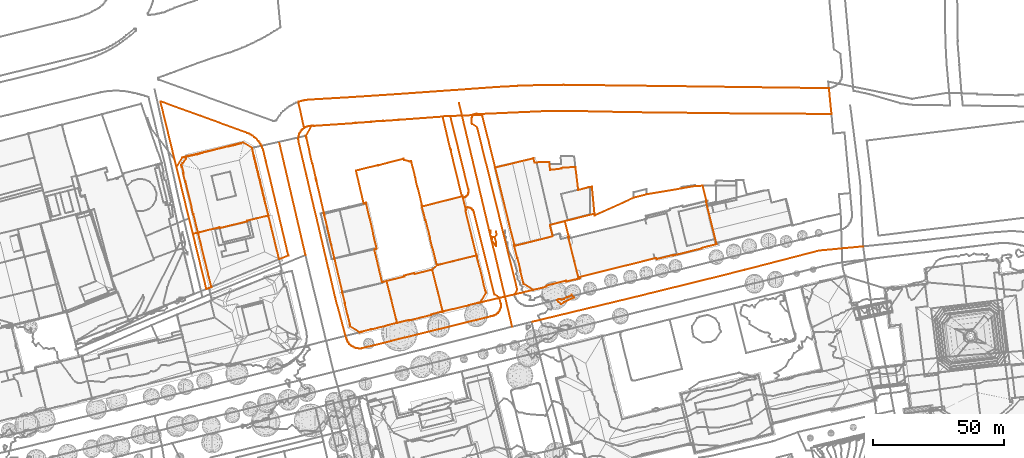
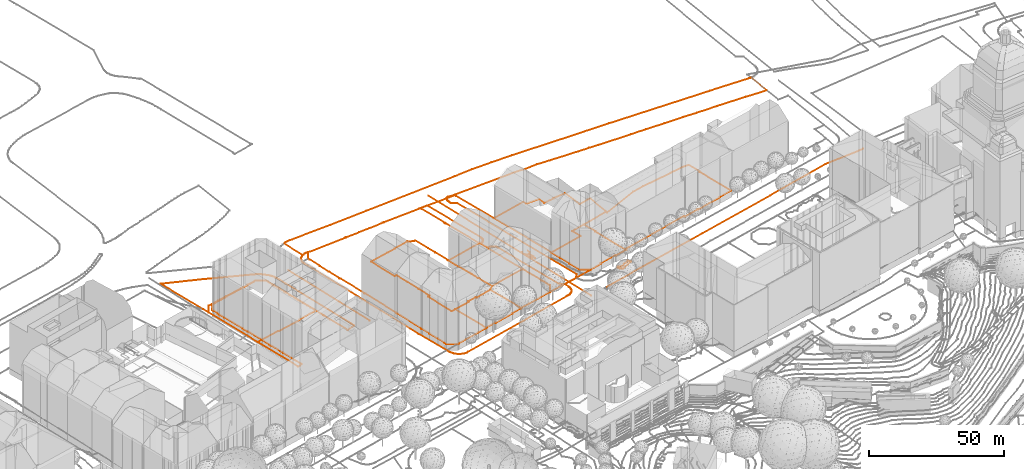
# Not in any storey, part 204 of 477: 11 geographic elements, 7 civil elements.
"""IFC4 model written with IfcOpenShell, lengths in metres."""

from ifc_helpers import new_model, entity, si_unit, frame, origin_with_axes, place, context, subcontext, project, spatial, element, save


model = new_model("IFC4")

# Units and contexts
model_context = context("Model", 3, precision=1e-05, world=origin_with_axes())
body_context = subcontext(model_context, "Body", "Model", "MODEL_VIEW")
ifc_project = project(units=[si_unit("AREAUNIT", "SQUARE_METRE"), si_unit("LENGTHUNIT", "METRE")], contexts=[model_context])

# Sites
site_1_placement = place(None, origin_with_axes())
site_1 = spatial("IfcSite", under=ifc_project, at=site_1_placement, Name="Topoexport Site")
site_2_placement = place(site_1_placement, origin_with_axes())
site_2 = spatial("IfcSite", under=site_1, at=site_2_placement, Name="TPX_ROADS")

# Civil elements
civil_element_1_placement = place(site_2_placement, frame((336.4817320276, 476.9157286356, 542.04), z_axis=(0.0, 0.0, 1.0), x_axis=(1.0, 0.0, 0.0)))
element("IfcCivilElement", 1, at=civil_element_1_placement, inside=site_2, Name="Road 6", ObjectType="ROAD", context=body_context, shape_type="GeometricCurveSet", body=[
    entity("IfcGeometricCurveSet", [entity("IfcIndexedPolyCurve", entity("IfcCartesianPointList3D", [[0.0, 0.0, 0.0], [20.3959999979, -85.9449973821, -0.392]]))]),
])
civil_element_2_placement = place(site_2_placement, frame((267.7387320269, 461.526729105, 541.693), z_axis=(0.0, 0.0, 1.0), x_axis=(1.0, 0.0, 0.0)))
element("IfcCivilElement", 2, at=civil_element_2_placement, inside=site_2, Name="Road 45", ObjectType="ROAD", context=body_context, shape_type="GeometricCurveSet", body=[
    entity("IfcGeometricCurveSet", [entity("IfcIndexedPolyCurve", entity("IfcCartesianPointList3D", [[0.0, 0.0, 0.0], [10.0669999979, -43.1429986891, -0.29]]))]),
])
civil_element_3_placement = place(site_2_placement, frame((364.3557320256, 392.7987311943, 541.738), z_axis=(0.0, 0.0, 1.0), x_axis=(1.0, 0.0, 0.0)))
element("IfcCivilElement", 3, at=civil_element_3_placement, inside=site_2, Name="Road 168", ObjectType="ROAD", context=body_context, shape_type="GeometricCurveSet", body=[
    entity("IfcGeometricCurveSet", [entity("IfcIndexedPolyCurve", entity("IfcCartesianPointList3D", [[0.0, 0.0, 0.0], [48.0580000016, 11.6349996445, 0.573], [81.7109999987, 19.9759993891, 0.748], [109.8969999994, 27.3109991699, 0.752], [126.8670000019, 28.8919991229, 0.703]]))]),
])

# Site
site_3_placement = place(site_1_placement, origin_with_axes())
site_3 = spatial("IfcSite", under=site_1, at=site_3_placement, Name="TPX_ROADS_OUTLINES")

# Civil elements
civil_element_4_placement = place(site_3_placement, frame((222.2827320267, 477.1937160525, 541.8190164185), z_axis=(0.0, 0.0, 1.0), x_axis=(1.0, 0.0, 0.0)))
element("IfcCivilElement", 4, at=civil_element_4_placement, inside=site_3, Name="Roads Outline 15", ObjectType="ROAD", context=body_context, shape_type="GeometricCurveSet", body=[
    entity("IfcGeometricCurveSet", [entity("IfcIndexedPolyCurve", entity("IfcCartesianPointList3D", [[0.0, 0.0, 0.0], [15.1660000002, -5.504, 0.1213694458], [33.1520000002, -12.051, -0.0485975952], [33.8740000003, -12.361, -0.0483331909], [34.571, -12.7239999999, -0.0481192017], [35.2390000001, -13.139, -0.0478943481], [35.8730000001, -13.6030000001, -0.0476621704], [36.4700000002, -14.1140000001, -0.0474786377], [37.0270000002, -14.6680000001, -0.0473005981], [37.5410000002, -15.263, -0.0471123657], [37.952, -15.8130000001, -0.046961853], [38.3250000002, -16.389, -0.0468252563], [38.659, -16.9890000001, -0.0467029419], [38.9930000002, -17.7, -0.048979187], [39.2710000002, -18.4350000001, -0.0556814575], [39.4930000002, -19.1880000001, -0.0610336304], [40.3840000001, -22.9620000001, -0.0843352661], [48.557, -57.24, -0.2920198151], [48.9580000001, -58.923, -0.332273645], [45.3939999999, -60.3840000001, -0.2306987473], [43.1609999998, -51.1940000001, -0.1948359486], [42.4029999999, -48.0719999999, -0.1406201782], [42.2390000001, -47.3959999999, -0.1360457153], [41.477, -44.2579999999, -0.1147911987], [41.335, -43.673, -0.1108303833], [41.2590000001, -43.3589999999, -0.1087105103], [41.0460000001, -42.4820000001, -0.1027692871], [40.6920000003, -41.027, -0.0929075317], [40.307, -39.4410000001, -0.0821921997], [40.2050000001, -39.4620000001, -0.0793533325], [39.6720000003, -37.254, -0.0653491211], [39.7689999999, -37.2280000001, -0.0676876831], [39.5610000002, -36.3700000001, -0.0626730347], [39.4649999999, -36.3959999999, -0.0603585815], [38.9199999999, -34.165, -0.0472192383], [39.017, -34.129, -0.0495578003], [38.8110000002, -33.281, -0.0466472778], [38.713, -33.298, -0.0466831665], [38.1750000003, -31.0600000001, -0.046880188], [38.2660000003, -31.037, -0.0468468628], [38.054, -30.1670000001, -0.0469244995], [37.966, -30.189, -0.0469567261], [37.4169999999, -27.9850000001, -0.0471577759], [37.517, -27.9580000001, -0.0471211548], [37.3089999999, -27.102, -0.0471973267], [37.2140000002, -27.125, -0.0472321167], [36.6839999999, -24.9040000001, -0.0474133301], [36.77, -24.8810000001, -0.047387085], [36.5410000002, -23.9369999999, -0.0474569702], [36.4479999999, -23.959, -0.0474853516], [35.9270000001, -21.8219999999, -0.0476443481], [36.02, -21.794, -0.0476159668], [35.8119999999, -20.9369999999, -0.0476845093], [35.7310000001, -20.9669999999, -0.0477141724], [35.1950000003, -18.7339999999, -0.0479104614], [35.2710000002, -18.7139999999, -0.0478826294], [35.0490000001, -17.797, -0.0479639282], [31.6699999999, -15.7320000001, -0.0490792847], [30.8289999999, -15.939, -0.0493832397], [30.8680000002, -16.1030000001, -0.0493713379], [28.6669999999, -16.6440000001, -0.0501040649], [28.625, -16.4820000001, -0.0501168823], [27.7790000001, -16.6910000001, -0.0503821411], [27.8149999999, -16.845, -0.0503689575], [25.574, -17.398, -0.0511286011], [25.5460000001, -17.2409999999, -0.051138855], [24.5530000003, -17.486, -0.051085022], [24.5630000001, -17.558, -0.0510935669], [17.1010000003, -19.4110000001, 0.0932592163], [17.077, -19.3219999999, 0.0937660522], [16.1540000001, -19.548, 0.1133033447], [16.2009999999, -19.7309999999, 0.1123079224], [13.9670000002, -20.273, 0.079338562], [13.9180000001, -20.0889999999, 0.0770686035], [13.0690000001, -20.294, 0.0376876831], [13.1200000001, -20.4809999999, 0.0400534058], [10.8540000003, -21.024, -0.034378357], [10.8119999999, -20.838, -0.0315328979], [9.9990000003, -21.0349999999, 0.0235470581], [9.5870000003, -21.7309999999, 0.0404435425], [9.7620000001, -21.8430000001, 0.0348466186], [8.571, -23.8160000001, 0.1002277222], [8.409, -23.706, 0.119053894], [7.9750000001, -24.4140000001, 0.1694894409], [8.1680000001, -25.173, 0.14706073], [8.3650000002, -25.122, 0.1241671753], [8.9300000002, -27.3970000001, 0.0614559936], [8.719, -27.4539999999, 0.0830285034], [8.9070000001, -28.176, 0.0621915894], [8.8670000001, -28.193, 0.0658292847], [9.4960000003, -30.727, 0.0433539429], [9.5970000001, -30.703, 0.0401237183], [11.98, -40.4469999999, -0.0067401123], [11.8900000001, -40.48, -0.0102526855], [12.5380000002, -43.1200000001, 0.0154313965], [12.6439999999, -43.095, 0.0196431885], [14.284, -49.899, 0.0817719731], [14.352, -50.2069999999, 0.0740258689], [14.4250000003, -50.5079999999, 0.0658913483], [14.4730000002, -50.497, 0.0676374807], [14.5419999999, -50.8019999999, 0.0550304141], [15.3229999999, -54.057, -0.0868005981], [15.4960000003, -54.801, -0.0912026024], [15.5320000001, -54.7949999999, -0.0912365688], [16.7650000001, -59.872, -0.0525231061], [16.7280000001, -59.888, -0.0525075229], [17.085, -61.328, -0.0623711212], [17.125, -61.3200000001, -0.06149336], [18.2490000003, -65.9380000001, -0.1528750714], [18.1970000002, -65.9669999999, -0.1550058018], [18.5589999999, -67.426, -0.1629855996], [18.608, -67.4299999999, -0.1627975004], [19.4879999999, -71.0, -0.1167751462], [18.5600000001, -71.3800000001, -0.1367043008], [17.6069999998, -71.7720000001, -0.1267196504], [12.432, -50.6740000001, -0.0303872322], [10.9810000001, -44.763, -0.0348307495], [6.148, -25.061, 0.0580539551], [5.4550000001, -22.236, 0.0463912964], [0.0, 0.0, 0.0]]))]),
])
civil_element_5_placement = place(site_3_placement, frame((297.1247320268, 450.7117160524, 541.6788269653), z_axis=(0.0, 0.0, 1.0), x_axis=(1.0, 0.0, 0.0)))
element("IfcCivilElement", 5, at=civil_element_5_placement, inside=site_3, Name="Roads Outline 59", ObjectType="ROAD", context=body_context, shape_type="GeometricCurveSet", body=[
    entity("IfcGeometricCurveSet", [entity("IfcIndexedPolyCurve", entity("IfcCartesianPointList3D", [[0.0, 0.0, 0.0], [1.6499999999, 0.409, -0.0016755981], [8.3700000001, 2.0730000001, -0.0223190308], [8.3959999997, 2.0, -0.0214017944], [11.9159999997, 2.8670000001, 0.059857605], [11.8909999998, 2.95, 0.0589176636], [18.196, 4.531, 0.1168852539], [18.3100000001, 4.0919999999, 0.1144012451], [20.5409999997, 3.53, 0.0503810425], [21.1319999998, 3.6770000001, 0.0335469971], [22.7859999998, -3.081, -0.010114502], [22.7199999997, -3.095, -0.0078787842], [23.585, -6.598, -0.0276338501], [23.6529999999, -6.584, -0.0287171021], [25.307, -13.348, -0.0642616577], [25.1519999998, -13.3899999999, -0.056664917], [25.2399999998, -13.7489999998, -0.0609779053], [26.5120000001, -18.953, -0.0857238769], [26.6719999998, -18.9269999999, -0.0804602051], [28.3339999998, -25.6739999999, 0.0201699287], [28.2569999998, -25.6949999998, 0.018988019], [29.1269999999, -29.1969999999, 0.0194713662], [29.1979999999, -29.186, 0.0207217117], [30.9329999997, -36.216, 0.049744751], [29.2029999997, -37.862, 0.0022249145], [22.3929999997, -39.591, -0.048434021], [22.2849999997, -39.192, -0.0505173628], [18.449, -40.1529999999, -0.0261394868], [18.5469999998, -40.5559999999, -0.024960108], [11.7319999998, -42.257, -0.0345388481], [9.9469999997, -42.703, -0.0551670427], [7.0179999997, -30.149, -0.040090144], [7.9099999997, -29.926, -0.074634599], [6.5209999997, -24.04, -0.018808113], [6.605, -24.0159999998, -0.0198595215], [5.2620000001, -18.2109999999, 0.0002366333], [5.1799999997, -18.236, 2.64282e-05], [3.821, -12.338, -0.0033411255], [2.9559999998, -12.5449999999, -0.0030061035], [0.0, 0.0, 0.0]]))]),
])
civil_element_6_placement = place(site_3_placement, frame((275.0467320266, 462.7807160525, 541.6980488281), z_axis=(0.0, 0.0, 1.0), x_axis=(1.0, 0.0, 0.0)))
element("IfcCivilElement", 6, at=civil_element_6_placement, inside=site_3, Name="Roads Outline 60", ObjectType="ROAD", context=body_context, shape_type="GeometricCurveSet", body=[
    entity("IfcGeometricCurveSet", [entity("IfcIndexedPolyCurve", entity("IfcCartesianPointList3D", [[0.0300000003, 0.5899999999, 0.0009667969], [0.1359999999, 1.2039999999, 0.0044673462], [0.318, 1.7999999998, 0.0134096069], [0.5720000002, 2.368, 0.0258894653], [0.8940000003, 2.9009999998, 0.0417103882], [1.281, 3.389, 0.0475413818], [1.7250000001, 3.8259999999, 0.0303331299], [2.2200000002, 4.2039999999, 0.0151245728], [2.7450000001, 4.513, 0.0182327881], [3.304, 4.7549999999, 0.0124403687], [3.8880000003, 4.9269999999, -0.0148276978], [4.4890000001, 5.0279999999, -0.071666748], [5.0970000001, 5.054, -0.1489284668], [2.8590000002, 1.2239999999, 0.0189077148], [3.0219999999, 0.547, 0.0198727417], [3.1030000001, 0.5649999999, 0.0203522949], [4.3910000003, -4.9470000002, -0.0592133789], [4.3089999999, -4.9770000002, -0.0487932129], [5.3930000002, -9.659, -0.1534569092], [5.4780000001, -9.645, -0.153524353], [6.7520000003, -15.135, -0.123000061], [6.6690000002, -15.162, -0.1271490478], [6.75, -15.517, -0.1231000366], [6.8310000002, -15.872, -0.1190510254], [6.9210000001, -15.844, -0.114552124], [9.8130000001, -28.331, -0.0100507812], [9.7400000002, -28.3430000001, -0.0095161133], [9.804, -28.689, -0.0099848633], [9.9010000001, -29.034, -0.0106953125], [9.9700000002, -29.027, -0.0112006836], [13.75, -45.318, -0.0928490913], [13.6800000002, -45.3420000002, -0.0932465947], [13.7409999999, -45.666, -0.0959733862], [13.8340000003, -46.0190000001, -0.0993786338], [13.9040000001, -46.0050000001, -0.0994325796], [16.8259999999, -58.4140000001, -0.2406979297], [16.7400000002, -58.466, -0.2413464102], [16.8259999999, -58.834, -0.247791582], [16.9130000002, -59.203, -0.2524293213], [16.9850000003, -59.1810000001, -0.2515760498], [17.855, -62.8020000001, -0.2738510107], [17.7620000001, -62.8360000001, -0.2750132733], [18.8360000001, -67.361, -0.2796952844], [18.9180000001, -67.3420000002, -0.2779980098], [19.7609999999, -71.0210000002, -0.3249816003], [19.679, -71.0490000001, -0.3270047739], [19.8370000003, -71.743, -0.3289797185], [23.4850000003, -73.9810000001, -0.2930095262], [24.1630000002, -73.817, -0.2965359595], [24.1520000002, -73.7290000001, -0.2928899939], [27.787, -72.817, -0.2841535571], [27.8190000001, -72.8910000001, -0.2865415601], [33.7880000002, -71.4000000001, -0.230156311], [33.7680000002, -71.321, -0.2318454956], [37.409, -70.4210000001, -0.1618181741], [37.4470000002, -70.5, -0.1583328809], [37.8110000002, -70.4110000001, -0.1326917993], [38.1750000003, -70.3220000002, -0.1024150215], [38.1520000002, -70.236, -0.0997557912], [42.324, -69.203, -0.0881807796], [42.378, -69.4310000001, -0.0971087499], [50.8030000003, -67.345, 0.0337734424], [50.7430000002, -67.1130000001, 0.0406000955], [54.895, -66.0720000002, 0.0804437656], [54.929, -66.1610000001, 0.0776237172], [55.2940000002, -66.071, 0.0829830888], [55.6580000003, -65.9820000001, 0.0827874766], [55.6350000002, -65.8900000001, 0.0821821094], [59.2590000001, -65.0010000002, 0.0659820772], [59.29, -65.0820000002, 0.0663261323], [65.281, -63.595, 0.145563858], [65.27, -63.5150000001, 0.1422196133], [68.8990000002, -62.6100000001, 0.2364492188], [68.9310000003, -62.7000000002, 0.234894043], [69.6170000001, -62.527, 0.2437378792], [71.8340000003, -58.8470000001, 0.243986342], [71.659, -58.1460000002, 0.2331991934], [71.5750000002, -58.1840000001, 0.2321311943], [70.6710000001, -54.534, 0.2416911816], [70.7370000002, -54.5180000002, 0.2410928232], [69.2680000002, -48.534, 0.2344405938], [69.1780000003, -48.5480000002, 0.2334919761], [68.2680000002, -44.915, 0.2603381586], [68.3429999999, -44.8860000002, 0.2610097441], [68.2579999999, -44.5120000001, 0.2662855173], [68.1720000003, -44.138, 0.2717700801], [68.0840000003, -44.1580000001, 0.2704731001], [63.9190000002, -27.2220000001, 0.2387770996], [64.1520000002, -27.1640000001, 0.2442525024], [63.929, -26.2590000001, 0.2390133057], [63.9750000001, -26.2450000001, 0.2400998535], [64.3470000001, -26.1610000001, 0.2485966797], [64.727, -26.1330000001, 0.2570622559], [65.1070000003, -26.1610000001, 0.265527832], [65.4790000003, -26.2450000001, 0.272583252], [65.835, -26.382, 0.2792539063], [66.227, -26.621, 0.2837104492], [66.5720000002, -26.9230000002, 0.2797938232], [66.8620000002, -27.2790000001, 0.2765015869], [67.088, -27.6780000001, 0.2739359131], [67.2430000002, -28.1100000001, 0.2676782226], [75.0360000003, -59.48, 0.1908198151], [76.9100000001, -60.612, 0.1337780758], [76.9569999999, -60.7950000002, 0.1268442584], [77.4410000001, -62.6900000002, 0.0761712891], [77.5260000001, -63.2010000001, 0.0825572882], [77.548, -63.719, 0.0967074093], [77.5060000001, -64.236, 0.1075981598], [77.3999999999, -64.743, 0.103211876], [77.233, -65.2340000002, 0.0967943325], [77.0070000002, -65.7000000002, 0.0902831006], [76.7250000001, -66.135, 0.0856594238], [76.3990000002, -66.524, 0.1023774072], [76.0279999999, -66.871, 0.1103007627], [75.6170000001, -67.1700000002, 0.0943287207], [75.1740000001, -67.4180000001, 0.0755755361], [74.7039999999, -67.6100000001, 0.0772408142], [74.2140000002, -67.7450000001, 0.0765519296], [73.7120000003, -67.8190000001, 0.0677834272], [24.548, -79.983, -0.4654792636], [23.9310000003, -80.0930000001, -0.4729349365], [23.3050000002, -80.128, -0.4662569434], [22.679, -80.0860000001, -0.4889861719], [22.0640000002, -79.9670000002, -0.5106293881], [21.4670000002, -79.7750000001, -0.4969277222], [20.898, -79.5110000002, -0.4904165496], [20.3659999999, -79.1800000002, -0.4878103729], [19.915, -78.821, -0.4824731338], [19.5070000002, -78.4130000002, -0.4973264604], [19.1469999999, -77.9610000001, -0.5141732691], [18.841, -77.4720000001, -0.4788578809], [18.591, -76.952, -0.4694580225], [18.4020000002, -76.4070000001, -0.4673487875], [18.1120000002, -75.3370000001, -0.4588355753], [14.2260000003, -61.0010000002, -0.2770075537], [10.807, -46.452, -0.1292259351], [7.0100000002, -30.335, -0.1101032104], [3.1570000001, -13.942, 0.0193040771], [0.148, -1.1700000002, 0.0050569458], [0.0390000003, -0.5890000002, 0.0012568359], [0.0, 0.0, 0.0], [0.0300000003, 0.5899999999, 0.0009667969]]))]),
])
civil_element_7_placement = place(site_3_placement, frame((275.0697320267, 477.0437160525, 541.6987900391), z_axis=(0.0, 0.0, 1.0), x_axis=(1.0, 0.0, 0.0)))
element("IfcCivilElement", 7, at=civil_element_7_placement, inside=site_3, Name="Roads Outline 98", ObjectType="ROAD", context=body_context, shape_type="GeometricCurveSet", body=[
    entity("IfcGeometricCurveSet", [entity("IfcIndexedPolyCurve", entity("IfcCartesianPointList3D", [[0.0, 0.0, 0.0], [0.9550000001, 0.2999999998, 0.0450963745], [1.929, 0.534, 0.0207940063], [2.9160000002, 0.7009999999, 0.0186401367], [3.912, 0.801, -0.0177634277], [20.8390000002, 1.7969999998, -0.0187177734], [37.0350000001, 2.865, 0.1146030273], [76.2800000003, 5.6599999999, 0.2426313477], [84.1529999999, 6.098, 0.4367965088], [92.6230000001, 6.3779999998, 0.4419957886], [101.443, 6.4759999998, 0.5096697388], [142.7919999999, 5.9759999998, 0.7670620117], [185.5440000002, 5.4099999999, 0.9065622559], [202.1740000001, 5.193, 0.8507559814], [202.5989999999, 5.1849999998, 0.8392645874], [203.0240000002, 5.2089999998, 0.8277731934], [204.0160000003, -4.78, 0.7992883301], [195.247, -4.6860000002, 0.8912233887], [195.2519999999, -4.6330000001, 0.8912294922], [182.966, -4.5110000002, 0.9174223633], [182.9560000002, -4.5550000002, 0.9174052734], [174.3390000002, -4.456, 0.889439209], [174.3259999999, -4.5440000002, 0.8896708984], [168.2680000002, -4.4710000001, 0.9985366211], [160.4900000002, -4.3790000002, 0.8777983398], [152.6710000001, -4.2890000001, 0.8739831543], [146.1809999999, -4.2100000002, 0.779840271], [132.8829999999, -4.0710000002, 0.7219985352], [128.463, -4.0010000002, 0.7368657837], [123.7630000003, -3.9310000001, 0.7331105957], [111.6899999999, -3.6850000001, 0.7322818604], [106.4109999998, -3.5620000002, 0.7436603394], [101.1630000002, -3.6130000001, 0.5055169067], [96.6600000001, -3.4920000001, 0.4575756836], [70.7039999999, -4.6530000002, 0.2269865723], [70.2489999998, -4.6730000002, 0.2097963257], [68.1090000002, -4.6150000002, 0.2211621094], [67.75, -4.6240000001, 0.2396347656], [67.4020000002, -4.7110000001, 0.2575615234], [67.0810000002, -4.8720000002, 0.2730130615], [66.9100000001, -4.9980000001, 0.2749543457], [66.7570000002, -5.145, 0.2766912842], [66.5989999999, -5.3490000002, 0.2784849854], [66.4739999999, -5.574, 0.2799040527], [66.3850000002, -5.8160000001, 0.2809144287], [66.29, -6.2720000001, 0.2819929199], [66.2420000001, -6.736, 0.2825378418], [66.247, -7.1900000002, 0.2824810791], [66.2820000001, -7.6420000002, 0.2820837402], [66.3450000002, -8.0800000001, 0.2813685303], [66.4369999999, -8.513, 0.2803240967], [68.4610000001, -9.8220000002, 0.2103339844], [83.7820000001, -71.8470000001, 0.2620856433], [82.662, -73.7070000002, 0.1999726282], [76.9339999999, -75.0580000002, 0.1261030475], [76.8870000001, -74.875, 0.1330368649], [75.0130000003, -73.743, 0.1900786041], [67.2200000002, -42.3730000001, 0.2669370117], [67.0649999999, -41.9410000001, 0.2731947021], [66.8390000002, -41.5420000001, 0.275760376], [66.5490000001, -41.1860000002, 0.2790526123], [66.2039999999, -40.8840000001, 0.2829692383], [65.8119999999, -40.645, 0.2785126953], [65.4560000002, -40.5080000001, 0.271842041], [65.0840000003, -40.4240000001, 0.2647866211], [64.7039999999, -40.3960000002, 0.2563210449], [64.324, -40.4240000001, 0.2478554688], [63.952, -40.5080000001, 0.2393586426], [63.906, -40.5220000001, 0.2382720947], [62.966, -36.7170000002, 0.2160687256], [63.0249999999, -36.7080000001, 0.2174623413], [63.4070000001, -36.6170000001, 0.2264854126], [63.77, -36.4680000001, 0.2350596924], [64.1060000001, -36.2640000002, 0.2429962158], [64.4050000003, -36.01, 0.2496599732], [64.662, -35.7130000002, 0.255385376], [64.8650000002, -35.3890000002, 0.2599077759], [65.017, -35.0380000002, 0.2632940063], [65.1140000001, -34.6690000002, 0.2654337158], [65.1540000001, -34.2890000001, 0.2661832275], [65.1359999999, -33.9070000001, 0.2658459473], [65.0610000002, -33.5320000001, 0.264274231], [58.1550000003, -5.4750000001, 0.1135582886], [55.2889999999, -5.5850000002, 0.0708122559], [54.611, -5.6420000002, 0.0607150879], [54.6189999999, -5.7320000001, 0.0608342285], [39.0249999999, -6.888, 0.1503070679], [39.0049999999, -6.8050000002, 0.1496100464], [38.6609999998, -6.8290000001, 0.1376212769], [38.3160000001, -6.8540000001, 0.1255976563], [38.3220000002, -6.9370000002, 0.1258067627], [32.463, -7.3570000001, -0.0012525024], [32.4399999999, -7.273, -0.0015627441], [27.8530000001, -7.611, -0.018352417], [27.8590000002, -7.6950000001, -0.0183370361], [21.9920000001, -8.1140000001, -0.0198977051], [21.9700000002, -8.05, -0.0198748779], [21.591, -8.0790000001, -0.0194816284], [21.2120000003, -8.108, -0.0190883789], [21.2200000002, -8.2070000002, -0.0190966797], [5.8790000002, -9.2550000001, -0.1546019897], [5.872, -9.155, -0.1545964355], [5.074, -9.209, -0.1496696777], [4.466, -9.2350000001, -0.072407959], [3.8650000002, -9.3360000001, -0.0155689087], [3.281, -9.5080000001, 0.0116991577], [2.7220000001, -9.75, 0.0174915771], [2.1970000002, -10.0590000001, 0.0143833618], [0.014, -0.0590000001, 0.0004511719], [0.0, 0.0, 0.0]]))]),
])

# Site
site_4_placement = place(site_1_placement, origin_with_axes())
site_4 = spatial("IfcSite", under=site_1, at=site_4_placement, Name="TPX_CADASTRES")

# Geographic elements
geographic_element_1_placement = place(site_4_placement, frame((228.4307320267, 452.1327160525, 541.8770703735), z_axis=(0.0, 0.0, 1.0), x_axis=(1.0, 0.0, 0.0)))
element("IfcGeographicElement", 8, at=geographic_element_1_placement, inside=site_4, Name="Cadastre 4", PredefinedType="NOTDEFINED", context=body_context, shape_type="GeometricCurveSet", body=[
    entity("IfcGeometricCurveSet", [entity("IfcIndexedPolyCurve", entity("IfcCartesianPointList3D", [[0.0, 0.0, 0.0], [2.1919999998, 3.6240000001, 0.0690184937], [25.5219999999, 9.3289999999, -0.1071332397], [28.9010000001, 7.264, -0.1060178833], [35.1869999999, -18.612, -0.1688843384], [26.9920000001, -20.5900000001, -0.1066559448], [27.0619999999, -20.8900000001, -0.1066303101], [16.5720000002, -23.4299999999, -0.0836911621], [16.4920000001, -23.1300000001, -0.0819968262], [8.233, -25.139, 0.0171891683], [6.284, -25.6130000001, -0.0884411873], [4.8330000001, -19.702, -0.0928847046], [0.0, 0.0, 0.0]]))]),
])
geographic_element_2_placement = place(site_4_placement, frame((377.0367320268, 431.3677160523, 542.2162315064), z_axis=(0.0, 0.0, 1.0), x_axis=(1.0, 0.0, 0.0)))
element("IfcGeographicElement", 9, at=geographic_element_2_placement, inside=site_4, Name="Cadastre 16", PredefinedType="NOTDEFINED", context=body_context, shape_type="GeometricCurveSet", body=[
    entity("IfcGeometricCurveSet", [entity("IfcIndexedPolyCurve", entity("IfcCartesianPointList3D", [[0.0, 0.0, 0.0], [11.3399999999, 2.8670000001, 0.1822682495], [11.4019999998, 2.213, 0.1821925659], [26.3789999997, 8.963, 0.2160894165], [31.3279999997, 10.253, 0.2043529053], [44.3670000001, 12.4850000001, 0.2570105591], [50.176, 13.4750000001, 0.3522877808], [52.736, 13.5150000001, 0.3821083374], [54.196, 7.635, 0.3756911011], [53.9959999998, 7.5850000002, 0.376788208], [58.0469999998, -8.818, 0.3820906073], [52.2969999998, -10.2389999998, 0.4040692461], [52.3619999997, -10.4689999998, 0.4052933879], [41.389, -13.1679999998, 0.3297703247], [41.338, -12.96, 0.3279343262], [35.1000000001, -14.534, 0.2568990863], [34.9839999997, -14.068, 0.2523218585], [5.6370000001, -21.3799999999, 0.0141217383], [5.767, -21.8739999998, 0.005846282], [5.2819999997, -21.9939999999, 0.0122577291], [1.3199999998, -6.1359999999, 0.1616621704], [1.537, -6.078, 0.1822575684], [0.0, 0.0, 0.0]]))]),
])
geographic_element_3_placement = place(site_4_placement, frame((297.1247320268, 450.7117160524, 541.6788269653), z_axis=(0.0, 0.0, 1.0), x_axis=(1.0, 0.0, 0.0)))
element("IfcGeographicElement", 10, at=geographic_element_3_placement, inside=site_4, Name="Cadastre 47", PredefinedType="NOTDEFINED", context=body_context, shape_type="GeometricCurveSet", body=[
    entity("IfcGeometricCurveSet", [entity("IfcIndexedPolyCurve", entity("IfcCartesianPointList3D", [[0.0, 0.0, 0.0], [1.6499999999, 0.409, -0.0016755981], [8.3700000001, 2.0730000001, -0.0223190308], [8.3959999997, 2.0, -0.0214017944], [11.9159999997, 2.8670000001, 0.059857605], [11.8909999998, 2.95, 0.0589176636], [18.196, 4.531, 0.1168852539], [18.3100000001, 4.0919999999, 0.1144012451], [20.5409999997, 3.53, 0.0503810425], [21.1319999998, 3.6770000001, 0.0335469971], [22.7859999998, -3.081, -0.010114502], [22.7199999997, -3.095, -0.0078787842], [23.585, -6.598, -0.0276338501], [23.6529999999, -6.584, -0.0287171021], [25.307, -13.348, -0.0642616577], [25.1519999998, -13.3899999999, -0.056664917], [25.2399999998, -13.7489999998, -0.0609779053], [26.5120000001, -18.953, -0.0857238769], [26.6719999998, -18.9269999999, -0.0804602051], [28.3339999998, -25.6739999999, 0.0201699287], [28.2569999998, -25.6949999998, 0.018988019], [29.1269999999, -29.1969999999, 0.0194713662], [29.1979999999, -29.186, 0.0207217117], [30.9329999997, -36.216, 0.049744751], [29.2029999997, -37.862, 0.0022249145], [22.3929999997, -39.591, -0.048434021], [22.2849999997, -39.192, -0.0505173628], [18.449, -40.1529999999, -0.0261394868], [18.5469999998, -40.5559999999, -0.024960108], [11.7319999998, -42.257, -0.0345388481], [9.9469999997, -42.703, -0.0551670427], [7.0179999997, -30.149, -0.040090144], [7.9099999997, -29.926, -0.074634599], [6.5209999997, -24.04, -0.018808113], [6.605, -24.0159999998, -0.0198595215], [5.2620000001, -18.2109999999, 0.0002366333], [5.1799999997, -18.236, 2.64282e-05], [3.821, -12.338, -0.0033411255], [2.9559999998, -12.5449999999, -0.0030061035], [0.0, 0.0, 0.0]]))]),
])
geographic_element_4_placement = place(site_4_placement, frame((330.3587320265, 471.4587160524, 541.7696022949), z_axis=(0.0, 0.0, 1.0), x_axis=(1.0, 0.0, 0.0)))
element("IfcGeographicElement", 11, at=geographic_element_4_placement, inside=site_4, Name="Cadastre 48", PredefinedType="NOTDEFINED", context=body_context, shape_type="GeometricCurveSet", body=[
    entity("IfcGeometricCurveSet", [entity("IfcIndexedPolyCurve", entity("IfcCartesianPointList3D", [[0.0, 0.0, 0.0], [14.9870000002, 0.5750000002, 0.1400041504], [15.145, -0.0789999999, 0.1459735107], [15.1920000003, -0.0799999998, 0.1477492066], [19.9960000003, -19.3929999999, 0.2209631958], [19.9610000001, -19.412, 0.2230460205], [20.0130000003, -19.6259999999, 0.2199515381], [20.108, -20.0209999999, 0.2142981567], [20.1710000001, -20.007, 0.2105490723], [27.3540000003, -49.1409999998, 0.3258504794], [27.196, -49.1839999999, 0.3249682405], [27.307, -49.6299999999, 0.3369750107], [28.4510000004, -54.2169999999, 0.3122674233], [28.5750000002, -54.1949999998, 0.3121810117], [29.7590000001, -59.0149999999, 0.2710263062], [29.6350000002, -59.0419999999, 0.2697677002], [30.8900000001, -64.1139999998, 0.2949888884], [34.5890000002, -66.419, 0.2919831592], [14.3050000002, -71.2049999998, 0.1721844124], [16.5220000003, -67.5249999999, 0.1724328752], [16.3470000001, -66.824, 0.1616457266], [16.2630000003, -66.862, 0.1605777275], [15.3590000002, -63.2119999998, 0.1701377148], [15.4250000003, -63.196, 0.1695393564], [13.9560000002, -57.2119999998, 0.162887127], [13.8660000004, -57.226, 0.1619385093], [12.9560000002, -53.5929999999, 0.1887846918], [13.031, -53.564, 0.1894562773], [12.946, -53.1899999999, 0.1947320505], [12.8600000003, -52.8159999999, 0.2002166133], [12.7720000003, -52.8359999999, 0.1989196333], [8.6070000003, -35.8999999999, 0.1672236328], [8.8400000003, -35.8419999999, 0.1726990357], [7.5440000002, -30.5899999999, 0.1421149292], [7.4550000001, -30.2309999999, 0.1400126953], [7.2320000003, -30.2859999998, 0.1347453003], [3.0720000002, -13.3169999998, 0.0458264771], [3.159, -13.2949999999, 0.0471274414], [3.0730000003, -12.9519999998, 0.0458414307], [2.9880000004, -12.6099999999, 0.0445703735], [2.9010000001, -12.632, 0.0432694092], [0.0790000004, -0.682, 0.0011765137], [0.1660000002, -0.6599999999, 0.002472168], [0.0, 0.0, 0.0]]))]),
])
geographic_element_5_placement = place(site_4_placement, frame((350.3717320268, 451.8327160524, 541.989553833), z_axis=(0.0, 0.0, 1.0), x_axis=(1.0, 0.0, 0.0)))
element("IfcGeographicElement", 12, at=geographic_element_5_placement, inside=site_4, Name="Cadastre 49", PredefinedType="NOTDEFINED", context=body_context, shape_type="GeometricCurveSet", body=[
    entity("IfcGeometricCurveSet", [entity("IfcIndexedPolyCurve", entity("IfcCartesianPointList3D", [[0.0, 0.0, 0.0], [14.6540000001, 3.585, 0.1497576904], [15.0449999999, 1.993, 0.1499817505], [20.6869999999, 2.1710000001, 0.1577591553], [21.034, -0.868, 0.1619075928], [25.4440000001, -0.355, 0.2413348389], [25.4219999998, -0.0859999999, 0.2429998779], [30.7319999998, 0.2760000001, 0.4419195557], [31.7919999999, -8.5419999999, 0.4724477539], [35.7850000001, -7.5319999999, 0.4568972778], [37.0260000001, -7.2179999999, 0.4254705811], [38.0049999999, -17.598, 0.4089459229], [26.665, -20.4650000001, 0.2266776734], [20.9350000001, -21.9129999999, 0.1604090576], [22.0299999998, -26.2579999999, 0.1873798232], [7.2939999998, -30.004, 0.1170234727], [7.1829999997, -29.558, 0.1050167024], [7.341, -29.5149999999, 0.1058989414], [0.1579999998, -0.3810000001, -0.0094024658], [0.0949999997, -0.395, -0.0056533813], [0.0, 0.0, 0.0]]))]),
])
geographic_element_6_placement = place(site_4_placement, frame((322.3647320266, 436.9627160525, 541.6178490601), z_axis=(0.0, 0.0, 1.0), x_axis=(1.0, 0.0, 0.0)))
element("IfcGeographicElement", 13, at=geographic_element_6_placement, inside=site_4, Name="Cadastre 50", PredefinedType="NOTDEFINED", context=body_context, shape_type="GeometricCurveSet", body=[
    entity("IfcGeometricCurveSet", [entity("IfcIndexedPolyCurve", entity("IfcCartesianPointList3D", [[0.0, 0.0, 0.0], [15.5380000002, 3.906, 0.2938681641], [16.8340000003, -1.3460000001, 0.3244522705], [16.6010000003, -1.4040000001, 0.3189768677], [20.7660000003, -18.3400000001, 0.3506728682], [20.8540000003, -18.3200000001, 0.3519698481], [20.9399999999, -18.6940000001, 0.3464852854], [5.693, -22.4670000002, 0.1107226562], [3.9580000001, -15.4370000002, 0.081699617], [3.8870000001, -15.4480000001, 0.0804492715], [3.017, -11.946, 0.0799659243], [3.094, -11.925, 0.081147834], [1.432, -5.1780000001, -0.0194822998], [1.2720000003, -5.2040000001, -0.0247459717], [0.0, 0.0, 0.0]]))]),
])
geographic_element_7_placement = place(site_4_placement, frame((357.6657320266, 421.8287160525, 542.1065773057), z_axis=(0.0, 0.0, 1.0), x_axis=(1.0, 0.0, 0.0)))
element("IfcGeographicElement", 14, at=geographic_element_7_placement, inside=site_4, Name="Cadastre 51", PredefinedType="NOTDEFINED", context=body_context, shape_type="GeometricCurveSet", body=[
    entity("IfcGeometricCurveSet", [entity("IfcIndexedPolyCurve", entity("IfcCartesianPointList3D", [[0.0, 0.0, 0.0], [14.736, 3.746, 0.0703563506], [13.6410000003, 8.091, 0.043385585], [19.3710000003, 9.5389999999, 0.1096542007], [20.9080000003, 3.4609999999, 0.2919117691], [20.6910000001, 3.4029999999, 0.2713163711], [24.6529999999, -12.4550000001, 0.1219119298], [19.9180000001, -13.6270000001, 0.0567596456], [19.824, -13.2490000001, 0.0560260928], [12.3530000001, -15.112, 0.0323117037], [12.4470000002, -15.49, 0.0079118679], [7.2820000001, -16.7890000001, -0.0449918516], [3.5830000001, -14.4839999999, -0.0419861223], [2.3280000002, -9.412, -0.0672073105], [2.452, -9.385, -0.0659487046], [1.2680000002, -4.5649999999, -0.024793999], [1.1440000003, -4.5870000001, -0.0247075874], [0.0, 0.0, 0.0]]))]),
])
geographic_element_8_placement = place(site_4_placement, frame((326.3277320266, 412.8497160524, 541.6810518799), z_axis=(0.0, 0.0, 1.0), x_axis=(1.0, 0.0, 0.0)))
element("IfcGeographicElement", 15, at=geographic_element_8_placement, inside=site_4, Name="Cadastre 53", PredefinedType="NOTDEFINED", context=body_context, shape_type="GeometricCurveSet", body=[
    entity("IfcGeometricCurveSet", [entity("IfcIndexedPolyCurve", entity("IfcCartesianPointList3D", [[0.0, 0.0, 0.0], [1.73, 1.6459999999, 0.0475198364], [16.977, 5.419, 0.2832824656], [17.0619999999, 5.0449999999, 0.2780066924], [16.9870000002, 5.0160000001, 0.2773351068], [17.8970000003, 1.3829999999, 0.2504889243], [17.9870000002, 1.3970000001, 0.251437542], [19.4560000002, -4.5870000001, 0.2580897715], [19.3900000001, -4.6029999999, 0.2586881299], [20.2940000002, -8.253, 0.2491281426], [20.378, -8.2150000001, 0.2501961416], [20.5530000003, -8.916, 0.2609832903], [18.3360000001, -12.5959999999, 0.2607348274], [17.6500000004, -12.7690000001, 0.2518909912], [17.6180000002, -12.679, 0.253446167], [13.9890000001, -13.584, 0.1592165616], [14.0, -13.6639999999, 0.1625608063], [8.0090000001, -15.1510000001, 0.0833230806], [7.9780000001, -15.0700000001, 0.0829790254], [4.3540000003, -15.959, 0.0991790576], [4.3770000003, -16.051, 0.0997844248], [4.0130000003, -16.1399999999, 0.0999800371], [0.0, 0.0, 0.0]]))]),
])
geographic_element_9_placement = place(site_4_placement, frame((308.8567320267, 408.4547160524, 541.6442881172), z_axis=(0.0, 0.0, 1.0), x_axis=(1.0, 0.0, 0.0)))
element("IfcGeographicElement", 16, at=geographic_element_9_placement, inside=site_4, Name="Cadastre 55", PredefinedType="NOTDEFINED", context=body_context, shape_type="GeometricCurveSet", body=[
    entity("IfcGeometricCurveSet", [entity("IfcIndexedPolyCurve", entity("IfcCartesianPointList3D", [[0.0, 0.0, 0.0], [6.8149999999, 1.7010000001, 0.0095787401], [6.7170000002, 2.1040000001, 0.0083993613], [10.5529999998, 3.0649999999, -0.0159785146], [10.6609999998, 2.666, -0.0138951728], [17.4709999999, 4.395, 0.0367637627], [21.4840000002, -11.7449999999, 0.1367437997], [21.1189999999, -11.835, 0.1313844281], [21.085, -11.746, 0.1342044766], [16.9330000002, -12.787, 0.0943608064], [16.9930000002, -13.0189999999, 0.0875341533], [8.568, -15.105, -0.043348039], [8.514, -14.8769999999, -0.0344200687], [4.3420000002, -15.9099999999, -0.0459950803], [4.3650000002, -15.996, -0.0486543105], [4.0010000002, -16.085, -0.0789310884], [0.0, 0.0, 0.0]]))]),
])

# Site
site_5_placement = place(site_1_placement, origin_with_axes())
site_5 = spatial("IfcSite", under=site_1, at=site_5_placement, Name="TPX_CONTOUR_LINES")

# Geographic elements
geographic_element_10_placement = place(site_5_placement, frame((348.5016236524, 426.1707160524, 542.0), z_axis=(0.0, 0.0, 1.0), x_axis=(1.0, 0.0, 0.0)))
element("IfcGeographicElement", 17, at=geographic_element_10_placement, inside=site_5, Name="Contour Line 542.0 m", PredefinedType="NOTDEFINED", context=body_context, shape_type="GeometricCurveSet", body=[
    entity("IfcGeometricCurveSet", [entity("IfcIndexedPolyCurve", entity("IfcCartesianPointList3D", [[2.1945699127, 1.5, 0.0], [2.4147290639, 0.0, 0.0], [1.6801734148, -1.0, 0.0], [2.3132051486, -3.0, 0.0], [2.1761083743, -4.3333333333, 0.0], [0.5960112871, -2.0, 0.0], [0.8780314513, -1.0, 0.0], [0.0, 0.0, 0.0], [0.1381336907, 1.5, 0.0]]))]),
])
geographic_element_11_placement = place(site_5_placement, frame((374.1576142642, 401.1707160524, 542.0), z_axis=(0.0, 0.0, 1.0), x_axis=(1.0, 0.0, 0.0)))
element("IfcGeographicElement", 18, at=geographic_element_11_placement, inside=site_5, Name="Contour Line 542.0 m", PredefinedType="NOTDEFINED", context=body_context, shape_type="GeometricCurveSet", body=[
    entity("IfcGeometricCurveSet", [entity("IfcIndexedPolyCurve", entity("IfcCartesianPointList3D", [[1.5201177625, -1.6146853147, 0.0], [2.5201177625, -0.8342440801, 0.0], [6.3895867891, 1.0, 0.0], [5.5201177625, 2.0055205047, 0.0], [4.5201177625, 1.3025454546, 0.0], [3.5201177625, 1.1204188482, 0.0], [2.5201177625, 0.3533950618, 0.0], [1.5201177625, 0.1885745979, 0.0], [0.5201177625, 0.4437002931, 0.0], [0.0, 0.0, 0.0], [0.5201177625, -0.8432776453, 0.0], [1.5201177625, -1.6146853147, 0.0]]))]),
])

save(model, "model.ifc")
